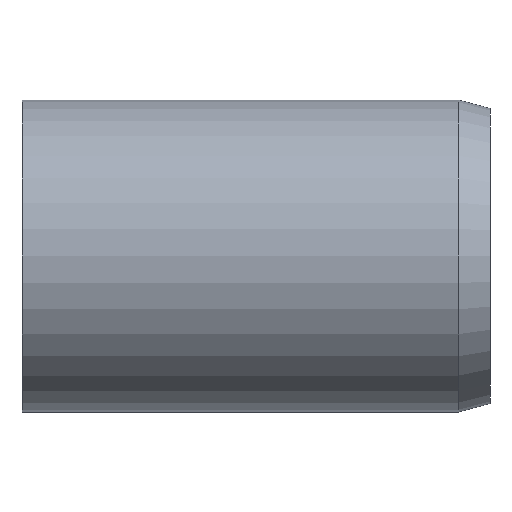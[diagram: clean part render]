
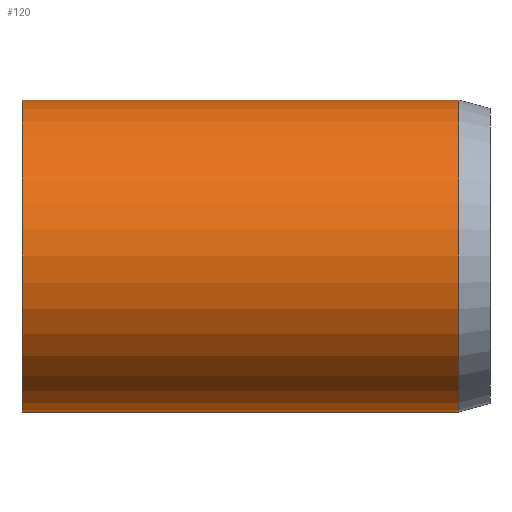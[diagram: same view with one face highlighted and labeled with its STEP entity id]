
A CAD part, front view. The second image highlights one B-rep face of the part: STEP entity #120.
In plain terms, the highlighted cylindrical face has radius 10 mm (diameter 20 mm), a full revolution.
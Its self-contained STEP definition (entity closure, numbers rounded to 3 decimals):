
#20=LINE('',#229,#23);
#23=VECTOR('',#197,10.);
#26=CYLINDRICAL_SURFACE('',#157,10.);
#32=FACE_OUTER_BOUND('',#41,.T.);
#41=EDGE_LOOP('',(#97,#98,#99,#100));
#49=CIRCLE('',#151,10.);
#53=CIRCLE('',#158,10.);
#59=VERTEX_POINT('',#217);
#62=VERTEX_POINT('',#227);
#70=EDGE_CURVE('',#59,#59,#49,.T.);
#74=EDGE_CURVE('',#62,#62,#53,.T.);
#75=EDGE_CURVE('',#62,#59,#20,.T.);
#97=ORIENTED_EDGE('',*,*,#74,.F.);
#98=ORIENTED_EDGE('',*,*,#75,.T.);
#99=ORIENTED_EDGE('',*,*,#70,.T.);
#100=ORIENTED_EDGE('',*,*,#75,.F.);
#120=ADVANCED_FACE('',(#32),#26,.T.);
#151=AXIS2_PLACEMENT_3D('',#218,#181,#182);
#157=AXIS2_PLACEMENT_3D('',#226,#193,#194);
#158=AXIS2_PLACEMENT_3D('',#228,#195,#196);
#181=DIRECTION('center_axis',(1.,0.,0.));
#182=DIRECTION('ref_axis',(0.,0.,-1.));
#193=DIRECTION('center_axis',(1.,0.,0.));
#194=DIRECTION('ref_axis',(0.,1.,0.));
#195=DIRECTION('center_axis',(1.,0.,0.));
#196=DIRECTION('ref_axis',(0.,0.,-1.));
#197=DIRECTION('',(-1.,0.,0.));
#217=CARTESIAN_POINT('',(0.,-10.,0.));
#218=CARTESIAN_POINT('Origin',(0.,0.,0.));
#226=CARTESIAN_POINT('Origin',(14.,0.,0.));
#227=CARTESIAN_POINT('',(28.,-10.,0.));
#228=CARTESIAN_POINT('Origin',(28.,0.,0.));
#229=CARTESIAN_POINT('',(14.,-10.,0.));
